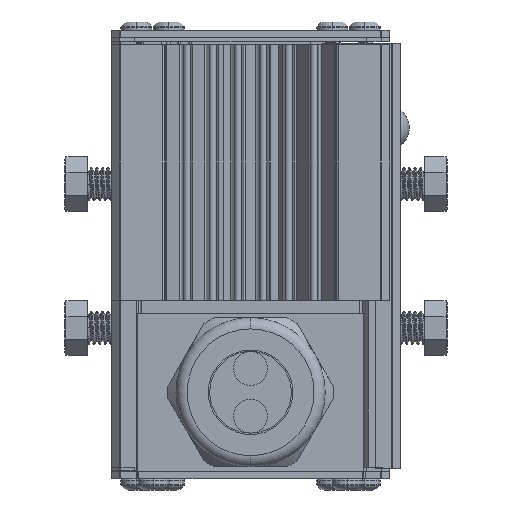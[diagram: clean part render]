
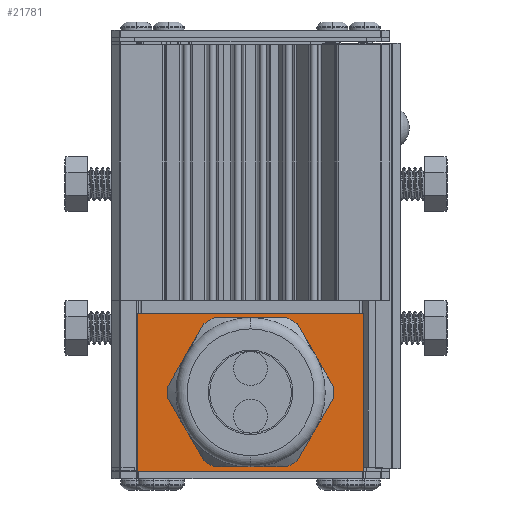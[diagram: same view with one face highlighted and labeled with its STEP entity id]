
A CAD part, front view. The second image highlights one B-rep face of the part: STEP entity #21781.
In plain terms, the highlighted planar face has unit normal (0, -1, 0).
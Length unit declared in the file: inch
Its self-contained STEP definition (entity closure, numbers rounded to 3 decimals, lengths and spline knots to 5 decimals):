
#512 = VERTEX_POINT ( 'NONE', #34788 ) ;
#595 = FACE_BOUND ( 'NONE', #13701, .T. ) ;
#2581 = DIRECTION ( 'NONE',  ( 1., 0., 0. ) ) ;
#2810 = CARTESIAN_POINT ( 'NONE',  ( 0., 0., 0. ) ) ;
#3187 = DIRECTION ( 'NONE',  ( 0., 0., -1. ) ) ;
#4787 = CIRCLE ( 'NONE', #28459, 0.36417 ) ;
#6161 = AXIS2_PLACEMENT_3D ( 'NONE', #25705, #30260, #58421 ) ;
#6834 = CIRCLE ( 'NONE', #38940, 0.36417 ) ;
#7596 = EDGE_LOOP ( 'NONE', ( #25261, #33320, #34716, #32884 ) ) ;
#9041 = EDGE_CURVE ( 'NONE', #45054, #12419, #30678, .T. ) ;
#11417 = CARTESIAN_POINT ( 'NONE',  ( 0., 0., 0. ) ) ;
#12419 = VERTEX_POINT ( 'NONE', #34044 ) ;
#13424 = EDGE_CURVE ( 'NONE', #30007, #57796, #17988, .T. ) ;
#13701 = EDGE_LOOP ( 'NONE', ( #40204, #44492 ) ) ;
#14223 = EDGE_CURVE ( 'NONE', #43921, #512, #6834, .T. ) ;
#15118 = DIRECTION ( 'NONE',  ( 0., 0., -1. ) ) ;
#15146 = EDGE_CURVE ( 'NONE', #12419, #30007, #50924, .T. ) ;
#16301 = VECTOR ( 'NONE', #2581, 39.37008 ) ;
#17988 = LINE ( 'NONE', #33901, #32830 ) ;
#19338 = CARTESIAN_POINT ( 'NONE',  ( 0., 0., -1.125 ) ) ;
#21781 = ADVANCED_FACE ( 'NONE', ( #595, #37406 ), #54109, .T. ) ;
#22275 = DIRECTION ( 'NONE',  ( 0., -1., 0. ) ) ;
#22386 = CARTESIAN_POINT ( 'NONE',  ( 1.605, 0., 0. ) ) ;
#25261 = ORIENTED_EDGE ( 'NONE', *, *, #9041, .F. ) ;
#25636 = CARTESIAN_POINT ( 'NONE',  ( 1.605, 0., -1.125 ) ) ;
#25705 = CARTESIAN_POINT ( 'NONE',  ( 0., 0., -1.125 ) ) ;
#25817 = LINE ( 'NONE', #19338, #60394 ) ;
#28459 = AXIS2_PLACEMENT_3D ( 'NONE', #45408, #22275, #3187 ) ;
#28513 = VECTOR ( 'NONE', #49949, 39.37008 ) ;
#30007 = VERTEX_POINT ( 'NONE', #22386 ) ;
#30260 = DIRECTION ( 'NONE',  ( 0., -1., 0. ) ) ;
#30678 = LINE ( 'NONE', #2810, #28513 ) ;
#32830 = VECTOR ( 'NONE', #15118, 39.37008 ) ;
#32884 = ORIENTED_EDGE ( 'NONE', *, *, #15146, .F. ) ;
#33320 = ORIENTED_EDGE ( 'NONE', *, *, #35443, .F. ) ;
#33901 = CARTESIAN_POINT ( 'NONE',  ( 1.605, 0., 0. ) ) ;
#34044 = CARTESIAN_POINT ( 'NONE',  ( 0., 0., 0. ) ) ;
#34423 = CARTESIAN_POINT ( 'NONE',  ( 0.8025, 0., -0.5625 ) ) ;
#34716 = ORIENTED_EDGE ( 'NONE', *, *, #13424, .F. ) ;
#34788 = CARTESIAN_POINT ( 'NONE',  ( 0.8025, 0., -0.19833 ) ) ;
#35443 = EDGE_CURVE ( 'NONE', #57796, #45054, #25817, .T. ) ;
#37406 = FACE_OUTER_BOUND ( 'NONE', #7596, .T. ) ;
#38940 = AXIS2_PLACEMENT_3D ( 'NONE', #34423, #39152, #57849 ) ;
#39152 = DIRECTION ( 'NONE',  ( 0., -1., 0. ) ) ;
#40204 = ORIENTED_EDGE ( 'NONE', *, *, #14223, .F. ) ;
#43093 = DIRECTION ( 'NONE',  ( -1., 0., 0. ) ) ;
#43921 = VERTEX_POINT ( 'NONE', #45833 ) ;
#44492 = ORIENTED_EDGE ( 'NONE', *, *, #50094, .F. ) ;
#45054 = VERTEX_POINT ( 'NONE', #60058 ) ;
#45408 = CARTESIAN_POINT ( 'NONE',  ( 0.8025, 0., -0.5625 ) ) ;
#45833 = CARTESIAN_POINT ( 'NONE',  ( 0.8025, 0., -0.92667 ) ) ;
#49949 = DIRECTION ( 'NONE',  ( 0., 0., 1. ) ) ;
#50094 = EDGE_CURVE ( 'NONE', #512, #43921, #4787, .T. ) ;
#50924 = LINE ( 'NONE', #11417, #16301 ) ;
#54109 = PLANE ( 'NONE',  #6161 ) ;
#57796 = VERTEX_POINT ( 'NONE', #25636 ) ;
#57849 = DIRECTION ( 'NONE',  ( 0., 0., -1. ) ) ;
#58421 = DIRECTION ( 'NONE',  ( 0., 0., -1. ) ) ;
#60058 = CARTESIAN_POINT ( 'NONE',  ( 0., 0., -1.125 ) ) ;
#60394 = VECTOR ( 'NONE', #43093, 39.37008 ) ;
